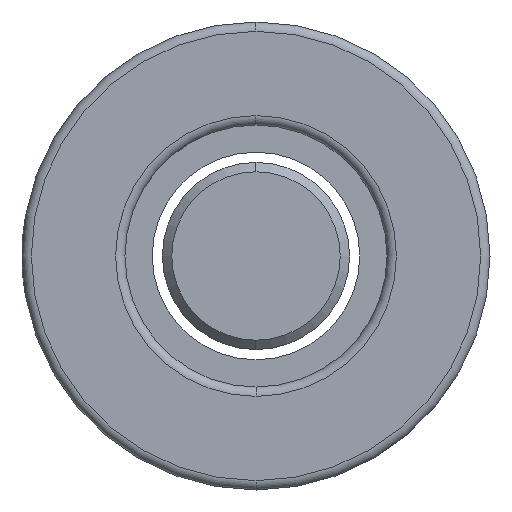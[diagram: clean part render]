
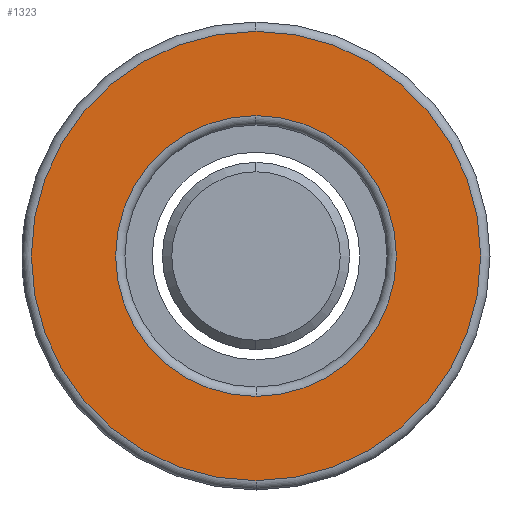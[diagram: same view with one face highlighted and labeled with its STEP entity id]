
A CAD part, left-side view. The second image highlights one B-rep face of the part: STEP entity #1323.
In plain terms, the highlighted planar face has unit normal (-1, 0, 0).
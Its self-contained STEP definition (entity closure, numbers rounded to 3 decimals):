
#34 = AXIS2_PLACEMENT_3D ( 'NONE', #1711, #2577, #1942 ) ;
#71 = VERTEX_POINT ( 'NONE', #1496 ) ;
#94 = AXIS2_PLACEMENT_3D ( 'NONE', #552, #1616, #1224 ) ;
#251 = FACE_OUTER_BOUND ( 'NONE', #1014, .T. ) ;
#276 = DIRECTION ( 'NONE',  ( 1., 0., 0. ) ) ;
#306 = DIRECTION ( 'NONE',  ( -1., 0., 0. ) ) ;
#454 = ORIENTED_EDGE ( 'NONE', *, *, #1227, .T. ) ;
#481 = CARTESIAN_POINT ( 'NONE',  ( 0., 0., 0. ) ) ;
#482 = ORIENTED_EDGE ( 'NONE', *, *, #1694, .T. ) ;
#552 = CARTESIAN_POINT ( 'NONE',  ( 0., 0., 0. ) ) ;
#809 = CIRCLE ( 'NONE', #2158, 12. ) ;
#843 = CIRCLE ( 'NONE', #2383, 7.5 ) ;
#942 = VERTEX_POINT ( 'NONE', #2421 ) ;
#1014 = EDGE_LOOP ( 'NONE', ( #454, #2263 ) ) ;
#1087 = EDGE_LOOP ( 'NONE', ( #482, #2056 ) ) ;
#1147 = DIRECTION ( 'NONE',  ( 1., 0., 0. ) ) ;
#1224 = DIRECTION ( 'NONE',  ( 0., 0., -1. ) ) ;
#1227 = EDGE_CURVE ( 'NONE', #71, #942, #809, .T. ) ;
#1323 = ADVANCED_FACE ( 'NONE', ( #1821, #251 ), #1388, .F. ) ;
#1350 = DIRECTION ( 'NONE',  ( 0., 0., -1. ) ) ;
#1353 = CARTESIAN_POINT ( 'NONE',  ( 0., 0., -7.5 ) ) ;
#1388 = PLANE ( 'NONE',  #94 ) ;
#1410 = CIRCLE ( 'NONE', #34, 12. ) ;
#1496 = CARTESIAN_POINT ( 'NONE',  ( 0., 0., -12. ) ) ;
#1555 = DIRECTION ( 'NONE',  ( 0., 0., -1. ) ) ;
#1616 = DIRECTION ( 'NONE',  ( 1., 0., 0. ) ) ;
#1647 = EDGE_CURVE ( 'NONE', #942, #71, #1410, .T. ) ;
#1693 = CIRCLE ( 'NONE', #2196, 7.5 ) ;
#1694 = EDGE_CURVE ( 'NONE', #2435, #2275, #1693, .T. ) ;
#1711 = CARTESIAN_POINT ( 'NONE',  ( 0., 0., 0. ) ) ;
#1765 = EDGE_CURVE ( 'NONE', #2275, #2435, #843, .T. ) ;
#1821 = FACE_BOUND ( 'NONE', #1087, .T. ) ;
#1942 = DIRECTION ( 'NONE',  ( 0., 0., -1. ) ) ;
#1967 = CARTESIAN_POINT ( 'NONE',  ( 0., 0., 0. ) ) ;
#2056 = ORIENTED_EDGE ( 'NONE', *, *, #1765, .T. ) ;
#2127 = DIRECTION ( 'NONE',  ( 0., 0., -1. ) ) ;
#2158 = AXIS2_PLACEMENT_3D ( 'NONE', #1967, #306, #1555 ) ;
#2196 = AXIS2_PLACEMENT_3D ( 'NONE', #481, #276, #2127 ) ;
#2263 = ORIENTED_EDGE ( 'NONE', *, *, #1647, .T. ) ;
#2275 = VERTEX_POINT ( 'NONE', #2544 ) ;
#2383 = AXIS2_PLACEMENT_3D ( 'NONE', #2606, #1147, #1350 ) ;
#2421 = CARTESIAN_POINT ( 'NONE',  ( 0., 0., 12. ) ) ;
#2435 = VERTEX_POINT ( 'NONE', #1353 ) ;
#2544 = CARTESIAN_POINT ( 'NONE',  ( 0., 0., 7.5 ) ) ;
#2577 = DIRECTION ( 'NONE',  ( -1., 0., 0. ) ) ;
#2606 = CARTESIAN_POINT ( 'NONE',  ( 0., 0., 0. ) ) ;
